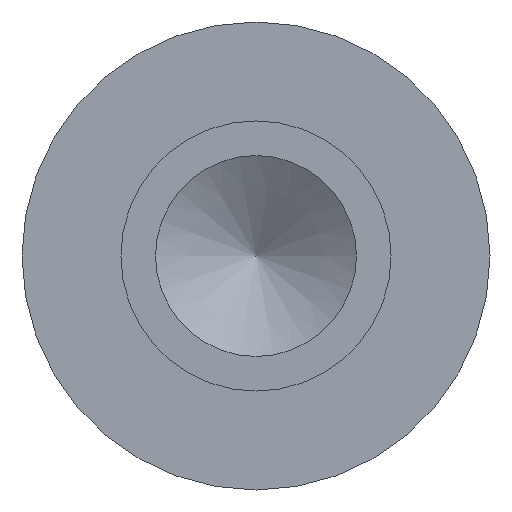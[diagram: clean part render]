
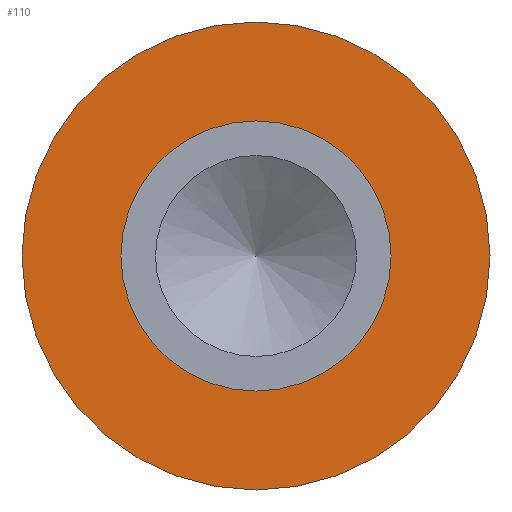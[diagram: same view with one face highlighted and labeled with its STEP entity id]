
A CAD part, left-side view. The second image highlights one B-rep face of the part: STEP entity #110.
In plain terms, the highlighted planar face has unit normal (-1, 0, 0).
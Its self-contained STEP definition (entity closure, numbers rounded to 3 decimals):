
#14=PLANE($,#130);
#21=FACE_BOUND($,#50,.T.);
#37=FACE_OUTER_BOUND($,#49,.T.);
#49=EDGE_LOOP($,(#94));
#50=EDGE_LOOP($,(#95));
#62=CIRCLE($,#128,1.143);
#64=CIRCLE($,#131,1.98);
#71=VERTEX_POINT($,#193);
#73=VERTEX_POINT($,#198);
#80=EDGE_CURVE($,#71,#71,#62,.T.);
#82=EDGE_CURVE($,#73,#73,#64,.T.);
#94=ORIENTED_EDGE($,*,*,#82,.F.);
#95=ORIENTED_EDGE($,*,*,#80,.T.);
#110=ADVANCED_FACE($,(#37,#21),#14,.T.);
#128=AXIS2_PLACEMENT_3D($,#194,#160,#161);
#130=AXIS2_PLACEMENT_3D($,#197,#164,#165);
#131=AXIS2_PLACEMENT_3D($,#199,#166,#167);
#160=DIRECTION('center_axis',(1.,0.,0.));
#161=DIRECTION('ref_axis',(0.,1.,0.));
#164=DIRECTION('center_axis',(-1.,0.,0.));
#165=DIRECTION('ref_axis',(0.,0.,1.));
#166=DIRECTION('center_axis',(1.,0.,0.));
#167=DIRECTION('ref_axis',(0.,1.,0.));
#193=CARTESIAN_POINT('',(1.295,1.143,0.));
#194=CARTESIAN_POINT('Origin',(1.295,0.,0.));
#197=CARTESIAN_POINT('Origin',(1.295,1.562,0.));
#198=CARTESIAN_POINT('',(1.295,1.98,0.));
#199=CARTESIAN_POINT('Origin',(1.295,0.,0.));
